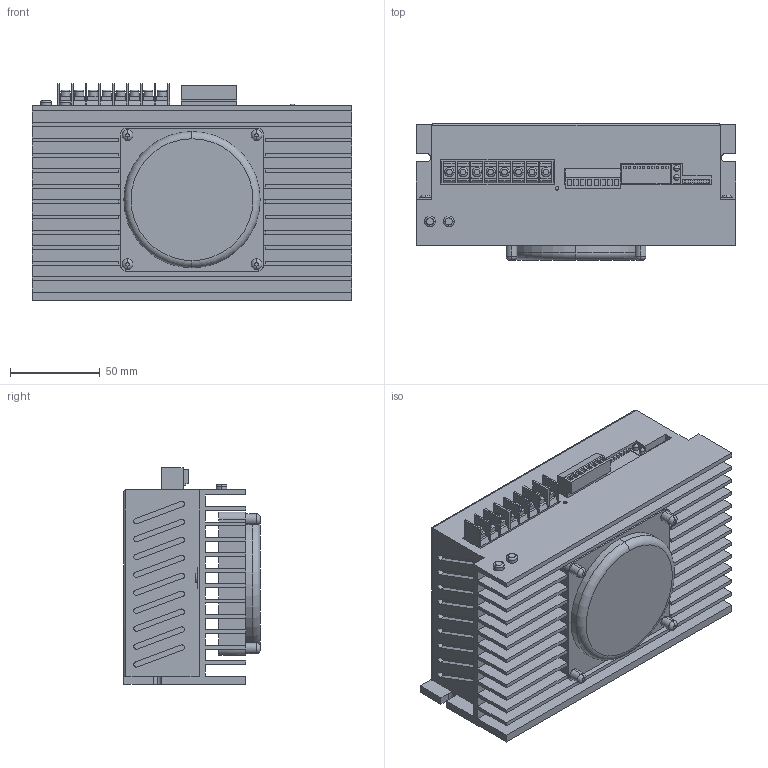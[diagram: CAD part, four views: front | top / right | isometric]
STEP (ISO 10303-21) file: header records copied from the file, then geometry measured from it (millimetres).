
FILE_DESCRIPTION (( 'STEP AP203' ), '1' );
FILE_NAME ('R110plus.STEP', '2023-10-28T06:31:08', ( '' ), ( '' ), 'SwSTEP 2.0', 'SolidWorks 2020', '' );
FILE_SCHEMA (( 'CONFIG_CONTROL_DESIGN' ));
Length unit declared in the file: millimetre
Products named in the file (1): R110plus
Bounding box: 178 x 76 x 121 mm (x, y, z)
Volume: 1036220.2 mm3; surface area: 176799.3 mm2
Topology: 1 solids, 1 shells, 668 faces, 1749 edges, 1140 vertices
Faces by surface type: plane 478, cylinder 152, torus 34, sphere 4
Entity records: 20416 total; most frequent: CARTESIAN_POINT 3552, ORIENTED_EDGE 3482, DIRECTION 3451, EDGE_CURVE 1741, VECTOR 1365, LINE 1365, VERTEX_POINT 1136, AXIS2_PLACEMENT_3D 1043
